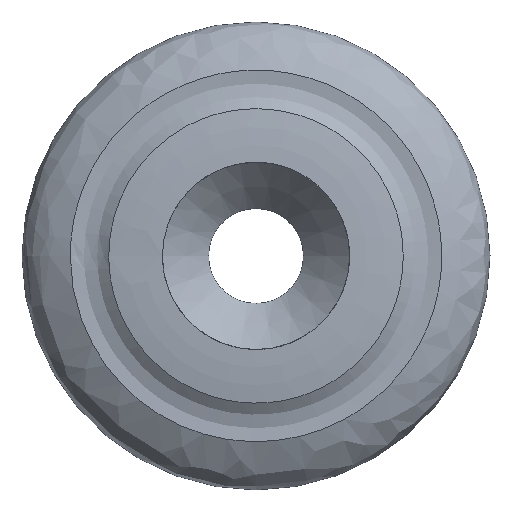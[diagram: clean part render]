
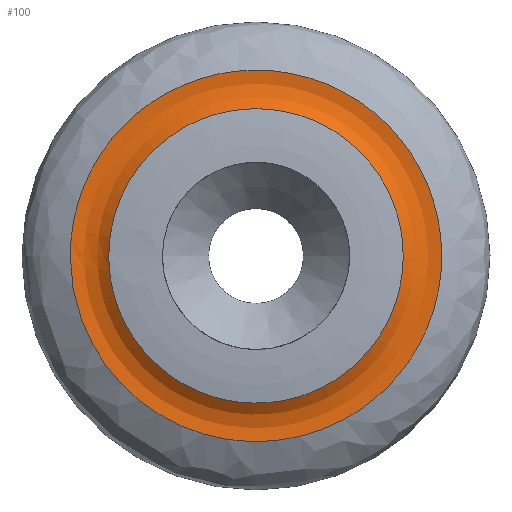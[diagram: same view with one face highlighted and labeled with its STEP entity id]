
A CAD part, top view. The second image highlights one B-rep face of the part: STEP entity #100.
In plain terms, the highlighted toroidal (fillet/blend) face has major radius 15 mm and minor radius 3.5 mm.
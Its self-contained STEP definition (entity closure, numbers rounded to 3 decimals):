
#28=FACE_OUTER_BOUND('',#35,.T.);
#35=EDGE_LOOP('',(#73,#74,#75,#76));
#43=CIRCLE('',#122,3.5);
#48=B_SPLINE_CURVE_WITH_KNOTS('',3,(#159,#160,#161,#162,#163,#164,#165,
#166,#167,#168,#169,#170,#171,#172,#173,#174,#175,#176,#177,#178,#179,#180,
#181,#182,#183,#184,#185,#186,#187,#188,#189,#190,#191,#192,#193,#194,#195,
#196,#197,#198,#199,#200,#201),.UNSPECIFIED.,.T.,.F.,(4,3,3,3,3,3,3,3,3,
3,3,3,3,3,4),(-0.753,-0.186,0.38,0.758,
1.513,1.891,2.646,3.024,3.779,
4.534,4.912,5.478,6.045,6.611,
7.178),.UNSPECIFIED.);
#49=B_SPLINE_CURVE_WITH_KNOTS('',3,(#204,#205,#206,#207,#208,#209,#210,
#211,#212,#213,#214,#215,#216,#217,#218,#219,#220,#221,#222,#223,#224,#225,
#226,#227,#228,#229,#230,#231,#232,#233,#234,#235,#236,#237,#238,#239,#240,
#241,#242,#243,#244,#245,#246,#247,#248,#249,#250,#251,#252),
 .UNSPECIFIED.,.T.,.F.,(4,3,3,3,3,3,3,3,3,3,3,3,3,3,3,3,4),(-9.325,
-8.611,-7.896,-7.182,-6.467,
-5.99,-5.514,-5.038,-4.561,
-3.608,-3.132,-2.655,-2.179,
-1.703,-0.75,-0.035,0.68),
 .UNSPECIFIED.);
#53=VERTEX_POINT('',#158);
#54=VERTEX_POINT('',#202);
#60=EDGE_CURVE('',#53,#53,#48,.F.);
#61=EDGE_CURVE('',#53,#54,#43,.T.);
#62=EDGE_CURVE('',#54,#54,#49,.F.);
#73=ORIENTED_EDGE('',*,*,#60,.F.);
#74=ORIENTED_EDGE('',*,*,#61,.T.);
#75=ORIENTED_EDGE('',*,*,#62,.F.);
#76=ORIENTED_EDGE('',*,*,#61,.F.);
#99=TOROIDAL_SURFACE('',#121,15.,3.5);
#100=ADVANCED_FACE('',(#28),#99,.F.);
#121=AXIS2_PLACEMENT_3D('',#157,#133,#134);
#122=AXIS2_PLACEMENT_3D('',#203,#135,#136);
#133=DIRECTION('center_axis',(0.,0.,1.));
#134=DIRECTION('ref_axis',(1.,0.,0.));
#135=DIRECTION('center_axis',(0.,1.,0.));
#136=DIRECTION('ref_axis',(-1.,0.,0.));
#157=CARTESIAN_POINT('Origin',(205.,0.,7.1));
#158=CARTESIAN_POINT('',(192.416,0.,4.568));
#159=CARTESIAN_POINT('Ctrl Pts',(192.416,0.,4.568));
#160=CARTESIAN_POINT('Ctrl Pts',(192.416,1.883,4.568));
#161=CARTESIAN_POINT('Ctrl Pts',(192.845,3.766,4.568));
#162=CARTESIAN_POINT('Ctrl Pts',(193.662,5.461,4.568));
#163=CARTESIAN_POINT('Ctrl Pts',(194.479,7.156,4.568));
#164=CARTESIAN_POINT('Ctrl Pts',(195.683,8.662,4.568));
#165=CARTESIAN_POINT('Ctrl Pts',(197.154,9.837,4.568));
#166=CARTESIAN_POINT('Ctrl Pts',(198.135,10.621,4.568));
#167=CARTESIAN_POINT('Ctrl Pts',(199.234,11.257,4.568));
#168=CARTESIAN_POINT('Ctrl Pts',(200.403,11.714,4.568));
#169=CARTESIAN_POINT('Ctrl Pts',(202.739,12.629,4.568));
#170=CARTESIAN_POINT('Ctrl Pts',(205.351,12.825,4.568));
#171=CARTESIAN_POINT('Ctrl Pts',(207.8,12.271,4.568));
#172=CARTESIAN_POINT('Ctrl Pts',(209.024,11.995,4.568));
#173=CARTESIAN_POINT('Ctrl Pts',(210.208,11.53,4.568));
#174=CARTESIAN_POINT('Ctrl Pts',(211.294,10.9,4.568));
#175=CARTESIAN_POINT('Ctrl Pts',(213.466,9.641,4.568));
#176=CARTESIAN_POINT('Ctrl Pts',(215.246,7.72,4.568));
#177=CARTESIAN_POINT('Ctrl Pts',(216.339,5.461,4.568));
#178=CARTESIAN_POINT('Ctrl Pts',(216.885,4.332,4.568));
#179=CARTESIAN_POINT('Ctrl Pts',(217.259,3.118,4.568));
#180=CARTESIAN_POINT('Ctrl Pts',(217.444,1.876,4.568));
#181=CARTESIAN_POINT('Ctrl Pts',(217.815,-0.608,4.568));
#182=CARTESIAN_POINT('Ctrl Pts',(217.431,-3.203,4.568));
#183=CARTESIAN_POINT('Ctrl Pts',(216.343,-5.462,4.568));
#184=CARTESIAN_POINT('Ctrl Pts',(215.256,-7.72,4.568));
#185=CARTESIAN_POINT('Ctrl Pts',(213.465,-9.641,4.568));
#186=CARTESIAN_POINT('Ctrl Pts',(211.292,-10.899,4.568));
#187=CARTESIAN_POINT('Ctrl Pts',(210.206,-11.528,4.568));
#188=CARTESIAN_POINT('Ctrl Pts',(209.024,-11.991,4.568));
#189=CARTESIAN_POINT('Ctrl Pts',(207.8,-12.269,4.568));
#190=CARTESIAN_POINT('Ctrl Pts',(205.965,-12.686,4.568));
#191=CARTESIAN_POINT('Ctrl Pts',(204.035,-12.687,4.568));
#192=CARTESIAN_POINT('Ctrl Pts',(202.2,-12.268,4.568));
#193=CARTESIAN_POINT('Ctrl Pts',(200.365,-11.85,4.568));
#194=CARTESIAN_POINT('Ctrl Pts',(198.625,-11.012,4.568));
#195=CARTESIAN_POINT('Ctrl Pts',(197.154,-9.838,4.568));
#196=CARTESIAN_POINT('Ctrl Pts',(195.682,-8.665,4.568));
#197=CARTESIAN_POINT('Ctrl Pts',(194.479,-7.156,4.568));
#198=CARTESIAN_POINT('Ctrl Pts',(193.662,-5.46,4.568));
#199=CARTESIAN_POINT('Ctrl Pts',(192.846,-3.765,4.568));
#200=CARTESIAN_POINT('Ctrl Pts',(192.416,-1.883,4.568));
#201=CARTESIAN_POINT('Ctrl Pts',(192.416,0.,
4.568));
#202=CARTESIAN_POINT('',(189.124,0.,3.711));
#203=CARTESIAN_POINT('Origin',(190.,0.,7.1));
#204=CARTESIAN_POINT('Ctrl Pts',(189.124,0.,
3.711));
#205=CARTESIAN_POINT('Ctrl Pts',(189.124,-2.375,3.711));
#206=CARTESIAN_POINT('Ctrl Pts',(189.666,-4.749,3.711));
#207=CARTESIAN_POINT('Ctrl Pts',(190.696,-6.889,3.711));
#208=CARTESIAN_POINT('Ctrl Pts',(191.726,-9.028,3.711));
#209=CARTESIAN_POINT('Ctrl Pts',(193.244,-10.932,3.711));
#210=CARTESIAN_POINT('Ctrl Pts',(195.101,-12.413,3.711));
#211=CARTESIAN_POINT('Ctrl Pts',(196.958,-13.893,3.711));
#212=CARTESIAN_POINT('Ctrl Pts',(199.152,-14.95,3.711));
#213=CARTESIAN_POINT('Ctrl Pts',(201.467,-15.478,3.711));
#214=CARTESIAN_POINT('Ctrl Pts',(203.782,-16.007,3.711));
#215=CARTESIAN_POINT('Ctrl Pts',(206.218,-16.007,3.711));
#216=CARTESIAN_POINT('Ctrl Pts',(208.533,-15.479,3.711));
#217=CARTESIAN_POINT('Ctrl Pts',(210.077,-15.128,3.711));
#218=CARTESIAN_POINT('Ctrl Pts',(211.567,-14.542,3.711));
#219=CARTESIAN_POINT('Ctrl Pts',(212.938,-13.75,3.711));
#220=CARTESIAN_POINT('Ctrl Pts',(214.309,-12.957,3.711));
#221=CARTESIAN_POINT('Ctrl Pts',(215.562,-11.959,3.711));
#222=CARTESIAN_POINT('Ctrl Pts',(216.638,-10.799,3.711));
#223=CARTESIAN_POINT('Ctrl Pts',(217.715,-9.638,3.711));
#224=CARTESIAN_POINT('Ctrl Pts',(218.615,-8.315,3.711));
#225=CARTESIAN_POINT('Ctrl Pts',(219.303,-6.889,3.711));
#226=CARTESIAN_POINT('Ctrl Pts',(219.991,-5.462,3.711));
#227=CARTESIAN_POINT('Ctrl Pts',(220.467,-3.931,3.711));
#228=CARTESIAN_POINT('Ctrl Pts',(220.702,-2.366,3.711));
#229=CARTESIAN_POINT('Ctrl Pts',(221.171,0.765,3.711));
#230=CARTESIAN_POINT('Ctrl Pts',(220.677,4.036,3.711));
#231=CARTESIAN_POINT('Ctrl Pts',(219.306,6.889,3.711));
#232=CARTESIAN_POINT('Ctrl Pts',(218.621,8.316,3.711));
#233=CARTESIAN_POINT('Ctrl Pts',(217.716,9.638,3.711));
#234=CARTESIAN_POINT('Ctrl Pts',(216.638,10.798,3.711));
#235=CARTESIAN_POINT('Ctrl Pts',(215.56,11.959,3.711));
#236=CARTESIAN_POINT('Ctrl Pts',(214.309,12.958,3.711));
#237=CARTESIAN_POINT('Ctrl Pts',(212.938,13.749,3.711));
#238=CARTESIAN_POINT('Ctrl Pts',(211.568,14.541,3.711));
#239=CARTESIAN_POINT('Ctrl Pts',(210.077,15.124,3.711));
#240=CARTESIAN_POINT('Ctrl Pts',(208.533,15.477,3.711));
#241=CARTESIAN_POINT('Ctrl Pts',(206.989,15.831,3.711));
#242=CARTESIAN_POINT('Ctrl Pts',(205.391,15.954,3.711));
#243=CARTESIAN_POINT('Ctrl Pts',(203.813,15.835,3.711));
#244=CARTESIAN_POINT('Ctrl Pts',(200.656,15.596,3.711));
#245=CARTESIAN_POINT('Ctrl Pts',(197.576,14.388,3.711));
#246=CARTESIAN_POINT('Ctrl Pts',(195.1,12.415,3.711));
#247=CARTESIAN_POINT('Ctrl Pts',(193.243,10.936,3.711));
#248=CARTESIAN_POINT('Ctrl Pts',(191.726,9.027,3.711));
#249=CARTESIAN_POINT('Ctrl Pts',(190.696,6.887,3.711));
#250=CARTESIAN_POINT('Ctrl Pts',(189.666,4.747,3.711));
#251=CARTESIAN_POINT('Ctrl Pts',(189.124,2.375,3.711));
#252=CARTESIAN_POINT('Ctrl Pts',(189.124,0.,3.711));
